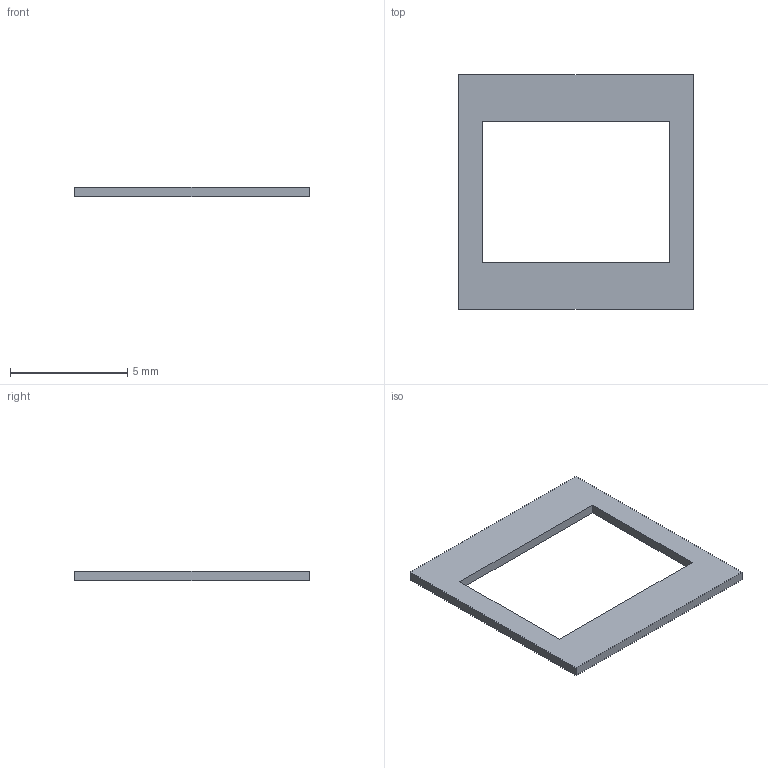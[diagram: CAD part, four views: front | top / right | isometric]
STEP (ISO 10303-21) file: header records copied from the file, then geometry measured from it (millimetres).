
FILE_DESCRIPTION(/* description */ (''),/* implementation_level */ '2;1');
FILE_NAME(/* name */ 'C28_R3_Front_Seat_Shim_0p40.step',/* time_stamp */ '2026-09-10T17:50:12-07:00',/* author */ (''),/* organization */ (''),/* preprocessor_version */ 'ST-DEVELOPER v20.1',/* originating_system */ 'Autodesk Translation Framework v15.8.0.0',/* authorisation */ '');
FILE_SCHEMA (('AUTOMOTIVE_DESIGN { 1 0 10303 214 3 1 1 }'));
Length unit declared in the file: millimetre
Products named in the file (1): 2026-09-10-17-50-12-353
Bounding box: 10 x 10 x 0.4 mm (x, y, z)
Volume: 20.8 mm3; surface area: 131.2 mm2
Topology: 1 solids, 1 shells, 10 faces, 24 edges, 16 vertices
Faces by surface type: plane 10
Entity records: 325 total; most frequent: CARTESIAN_POINT 51, ORIENTED_EDGE 48, DIRECTION 46, LINE 24, VECTOR 24, EDGE_CURVE 24, VERTEX_POINT 16, EDGE_LOOP 12
